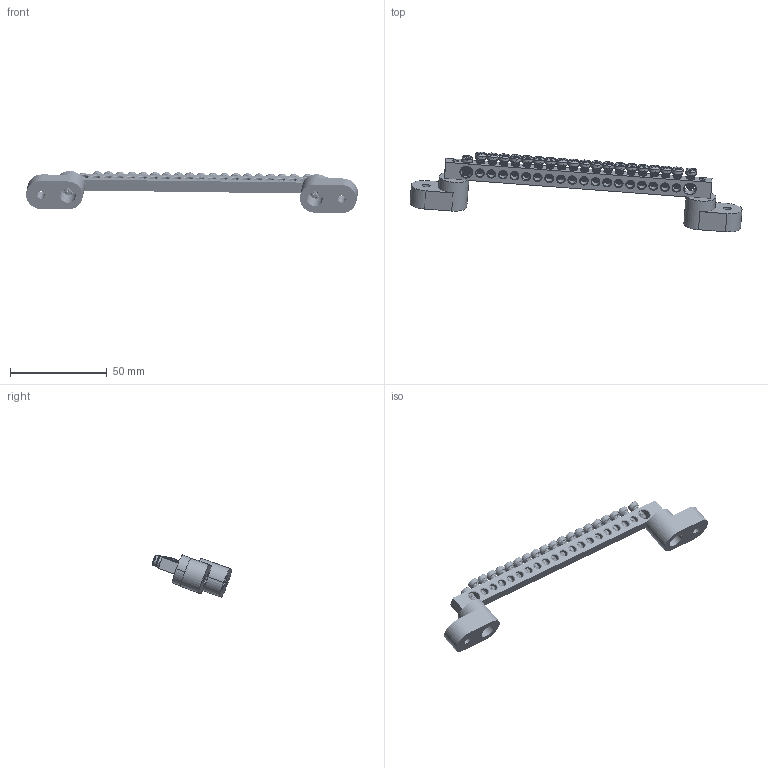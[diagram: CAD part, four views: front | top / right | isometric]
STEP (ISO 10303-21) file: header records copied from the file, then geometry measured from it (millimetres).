
FILE_DESCRIPTION (( 'STEP AP214' ), '1' );
FILE_NAME ('277892 OptiKit BB-T-N-S-20-6õ9-ñèíèé.STEP', '2020-02-06T12:33:50', ( '' ), ( '' ), 'SwSTEP 2.0', 'SolidWorks 2018', '' );
FILE_SCHEMA (( 'AUTOMOTIVE_DESIGN' ));
Length unit declared in the file: millimetre
Products named in the file (5): 277892 OptiKit BB-T-N-S-20-6õ9-ñèíèé; Øèíà íóëåâàÿ ñ êðåïåæíûìè îòâåðñòèÿìè ïî êðàÿì 6õ9 20-2_1; Øèíà 6õ9 20 2; DIN èçîëÿòîð 2; Âèíò ì4
Assembly tree (26 placements, depth 3):
  277892 OptiKit BB-T-N-S-20-6õ9-ñèíèé
    DIN èçîëÿòîð 2  x2
    Âèíò ì4  x2
    Øèíà íóëåâàÿ ñ êðåïåæíûìè îòâåðñòèÿìè ïî êðàÿì 6õ9 20-2_1
      Øèíà 6õ9 20 2
      Âèíò ì4  x20
Bounding box: 171.65 x 41.24 x 21.78 mm (x, y, z)
Volume: 16797.5 mm3; surface area: 15068.7 mm2
Topology: 25 solids, 25 shells, 1740 faces, 4830 edges, 3120 vertices
Faces by surface type: plane 612, cylinder 608, cone 278, torus 154, bspline 88
Entity records: 11647 total; most frequent: CARTESIAN_POINT 4565, DIRECTION 1356, ORIENTED_EDGE 1310, EDGE_CURVE 655, AXIS2_PLACEMENT_3D 546, VERTEX_POINT 408, EDGE_LOOP 345, CIRCLE 265
